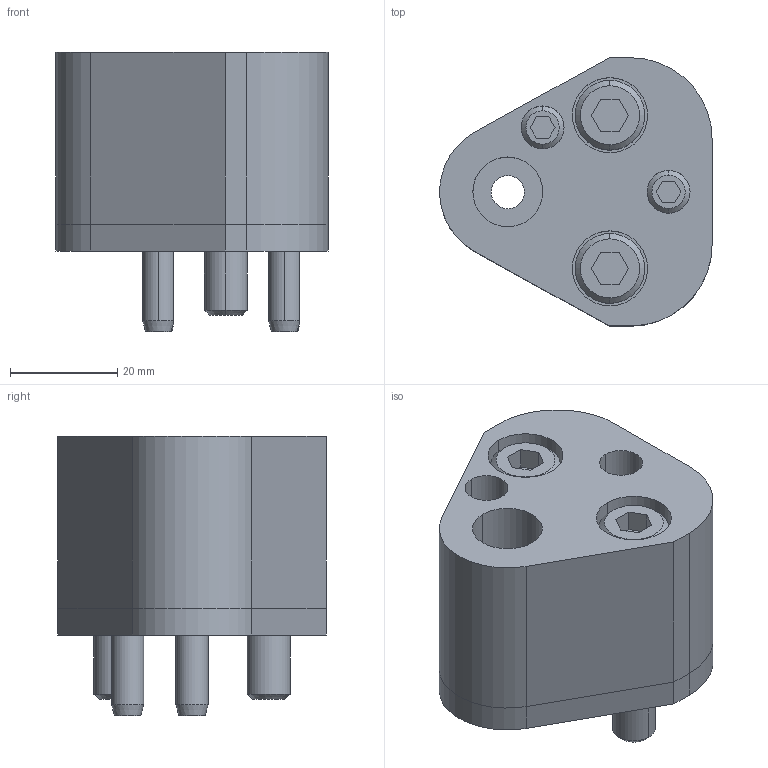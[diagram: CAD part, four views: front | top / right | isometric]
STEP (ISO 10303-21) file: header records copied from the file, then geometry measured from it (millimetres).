
FILE_DESCRIPTION(/* description */ (''),/* implementation_level */ '2;1');
FILE_NAME(/* name */ '3d_crn-ap13_03620_r00.stp',/* time_stamp */ '2011-01-10T14:16:24+09:00',/* author */ ('MISUMI'),/* organization */ (''),/* preprocessor_version */ 'ST-DEVELOPER v11',/* originating_system */ 'UGS - NX 5.0',/* authorisation */ '');
FILE_SCHEMA (('CONFIG_CONTROL_DESIGN'));
Length unit declared in the file: millimetre
Products named in the file (1): 3d_crn-ap13_03620_r00
Bounding box: 50.76 x 50 x 52 mm (x, y, z)
Volume: 62813.5 mm3; surface area: 23101.1 mm2
Topology: 8 solids, 8 shells, 155 faces, 348 edges, 224 vertices
Faces by surface type: plane 67, cylinder 62, cone 26
Entity records: 4494 total; most frequent: DIRECTION 804, CARTESIAN_POINT 782, ORIENTED_EDGE 696, EDGE_CURVE 348, AXIS2_PLACEMENT_3D 306, VERTEX_POINT 224, LINE 192, VECTOR 192
